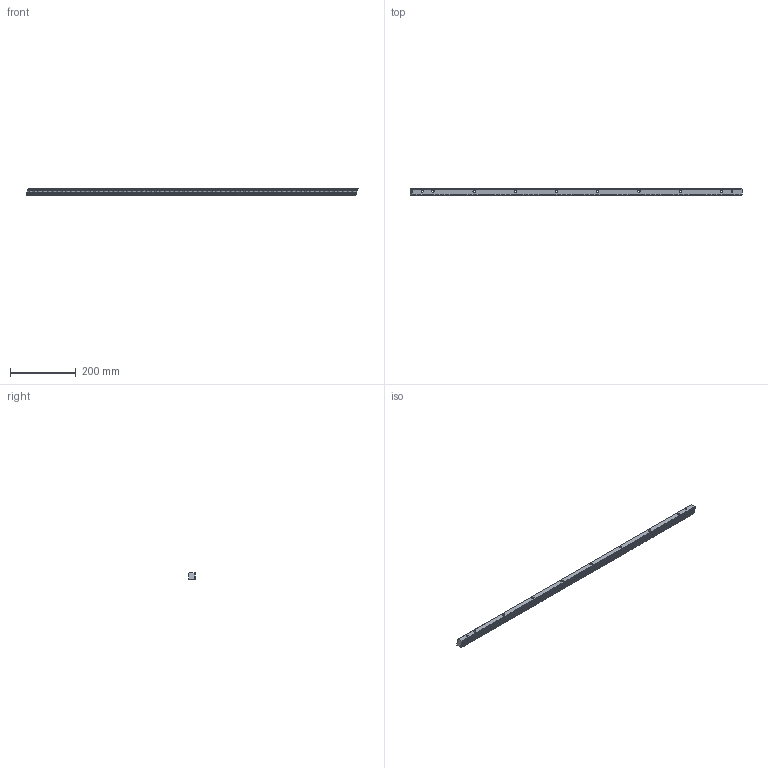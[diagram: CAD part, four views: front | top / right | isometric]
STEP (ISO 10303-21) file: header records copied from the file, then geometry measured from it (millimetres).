
FILE_DESCRIPTION(/* description */ (''),/* implementation_level */ '2;1');
FILE_NAME(/* name */ 'BL-1HR26R015100H.ipt',/* time_stamp */ '2019-06-18T08:36:06+02:00',/* author */ ('VĂ©gh MĂˇtĂ©'),/* organization */ ('Bearing Kft'),/* preprocessor_version */ 'ST-DEVELOPER v16.7',/* originating_system */ 'DEX',/* authorisation */ $);
FILE_SCHEMA (('AUTOMOTIVE_DESIGN {1 0 10303 214 3 1 1}'));
Products named in the file (1): BL-1HR26R015100H.ipt
Bounding box: 1007.1 x 20 x 20 mm (x, y, z)
Volume: 355542.1 mm3; surface area: 100587.9 mm2
Topology: 1 solids, 1 shells, 1574 faces, 4530 edges, 3020 vertices
Faces by surface type: plane 1077, bspline 477, cylinder 20
Full cylindrical faces by diameter (mm): 5.7 x2, 7 x8, 11 x8
Entity records: 67928 total; most frequent: CARTESIAN_POINT 16492, ORIENTED_EDGE 9012, DIRECTION 7388, EDGE_CURVE 4506, LINE 3512, VECTOR 3512, VERTEX_POINT 3020, AXIS2_PLACEMENT_3D 1938
